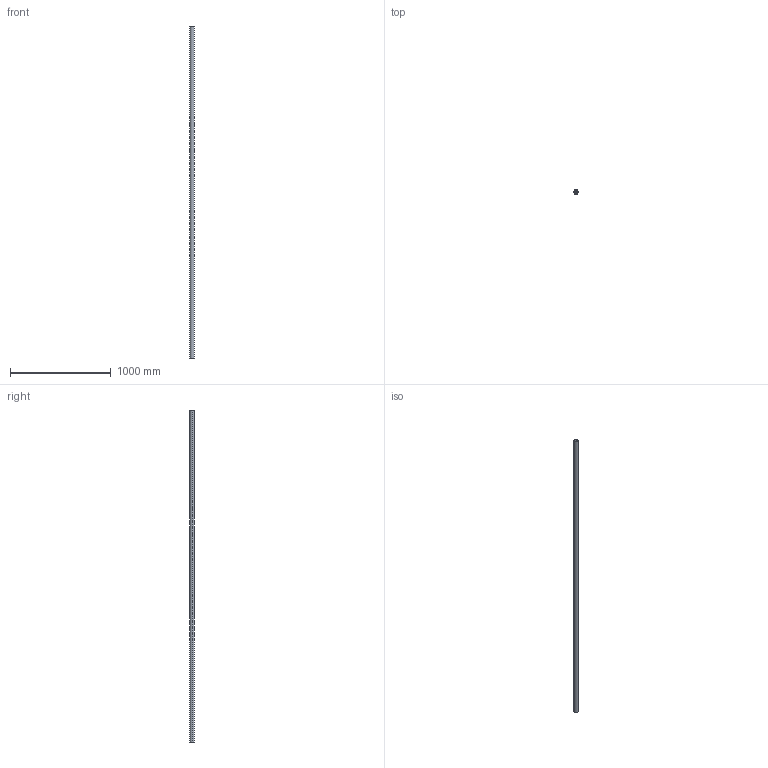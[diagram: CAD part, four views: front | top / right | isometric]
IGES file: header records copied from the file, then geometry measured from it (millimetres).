
Start section: SolidWorks IGES file using analytic representation for surfaces
Global section: file name: C:\Users\IanO\Desktop\L1771_v2\L1771.40_v2\L1771.40_v2_20230705_IGES\L1771.40-3300.igs; native system: SolidWorks 2019; preprocessor: SolidWorks 2019; author: IanO; date: 230705.161808; units: millimetre
Bounding box: 40 x 40 x 3300 mm (x, y, z)
Surface area: 706255.2 mm2 (no closed solid volume)
Topology: 0 solids, 0 shells, 6 faces, 272 edges, 272 vertices
Faces by surface type: revolution 4, bspline 2
